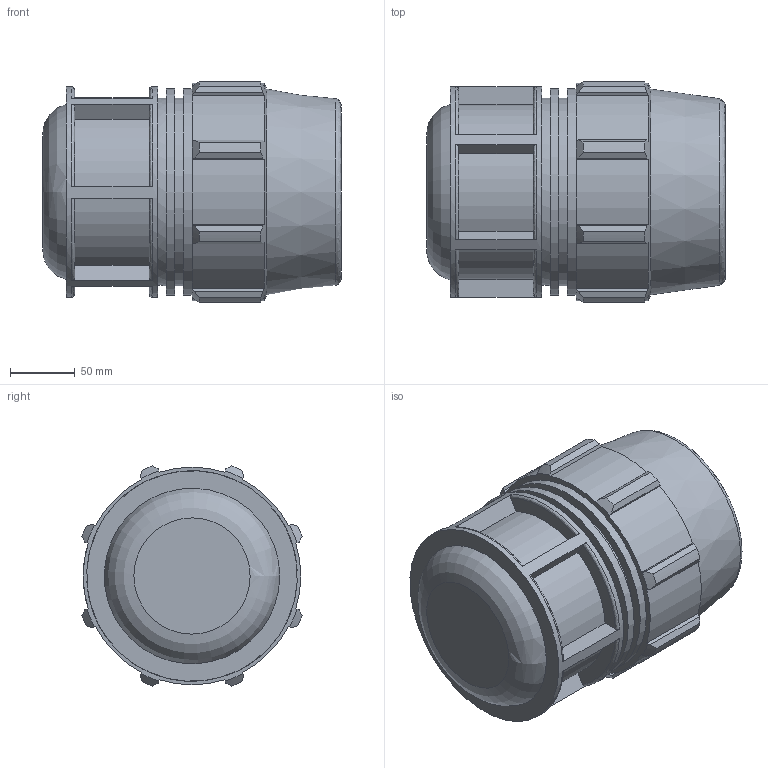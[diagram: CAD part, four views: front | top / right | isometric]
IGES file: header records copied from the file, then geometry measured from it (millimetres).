
Global section: file name: 0712061100A.ipt; native system: Autodesk Inventor 2015; preprocessor: unknown; author: Кирилл,,11,0; organization: 20170224.180708; date: 20180325.201216; units: millimetre
Bounding box: 231 x 170.31 x 170.31 mm (x, y, z)
Volume: 2169155.3 mm3; surface area: 258272.4 mm2
Topology: 1 solids, 1 shells, 121 faces, 322 edges, 216 vertices
Faces by surface type: plane 66, cylinder 27, revolution 18, cone 10
Full cylindrical faces by diameter (mm): 144.8 x2, 159.642 x2, 162.9 x1
